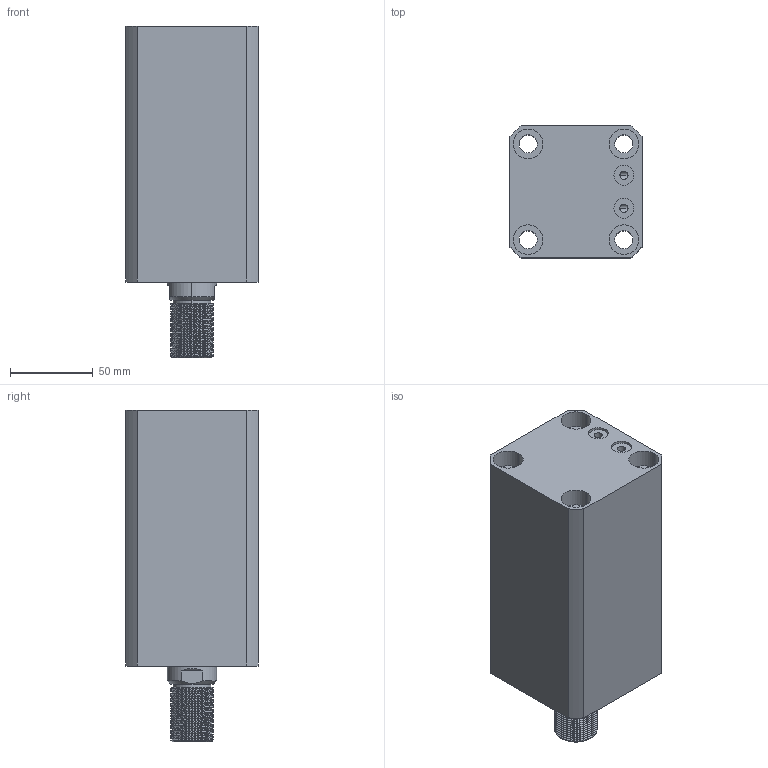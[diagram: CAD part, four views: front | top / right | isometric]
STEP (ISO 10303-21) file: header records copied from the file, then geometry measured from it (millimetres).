
FILE_DESCRIPTION (( 'STEP AP203' ), '1' );
FILE_NAME ('CHTB-SDMB50-95W.STEP', '2018-05-19T08:06:36', ( '' ), ( '' ), 'SwSTEP 2.0', 'SolidWorks 2015', '' );
FILE_SCHEMA (( 'CONFIG_CONTROL_DESIGN' ));
Length unit declared in the file: millimetre
Products named in the file (5): CHTB-SDMB50-95W; 活塞杆SDMB50-95W; 掛极SDMB50-95W; M6; CHTM-SDMA50QG
Assembly tree (5 placements, depth 2):
  CHTB-SDMB50-95W
    掛极SDMB50-95W
    活塞杆SDMB50-95W
    CHTM-SDMA50QG
    M6  x2
Bounding box: 80 x 80 x 201 mm (x, y, z)
Volume: 815924.1 mm3; surface area: 147550.9 mm2
Topology: 5 solids, 5 shells, 305 faces, 821 edges, 547 vertices
Faces by surface type: cylinder 175, plane 57, cone 29, bspline 28, torus 16
Entity records: 17763 total; most frequent: CARTESIAN_POINT 11022, ORIENTED_EDGE 1448, DIRECTION 1131, EDGE_CURVE 724, VERTEX_POINT 486, AXIS2_PLACEMENT_3D 455, EDGE_LOOP 312, ADVANCED_FACE 270
